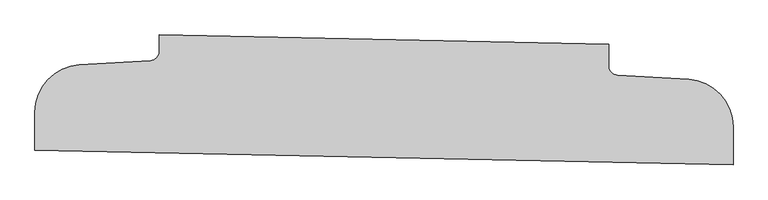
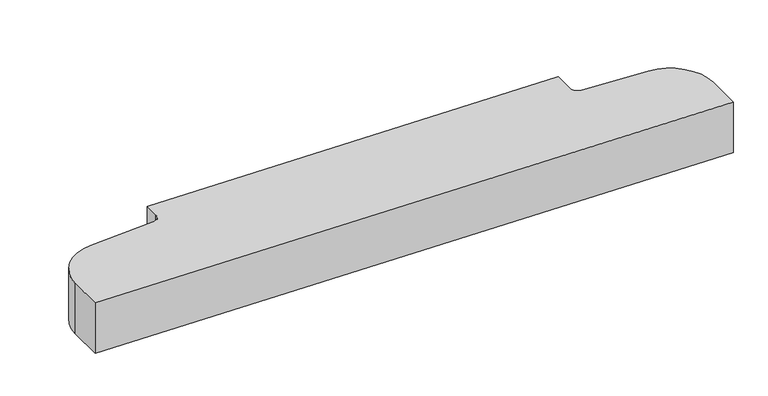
"""IFC4 building model written with IfcOpenShell, lengths in millimetres: proxy geometry, Diaphragm-End.sat."""

from ifc_helpers import new_model, si_unit, point, frame, frame_2d, origin, place, context, project, spatial, polyline, circle_curve, trimmed, segment, composite_curve, outline, extrude, source, transform, mapped, element, save


def generic_models_f0f57694(model_context):
    return source(origin(), model_context, "Body", "SweptSolid", [
        extrude(outline(composite_curve([segment(trimmed(circle_curve(frame_2d((-3022.6, 1065.3275791)), 203.2), [point((-3225.8, 1065.3275791))], [point((-3034.6738676, 1268.1685555))], False, "CARTESIAN"), True, "CONTINUOUS"), segment(polyline([(-3034.6738676, 1268.1685555), (-2728.2361498, 1286.4088958)]), True, "CONTINUOUS"), segment(trimmed(circle_curve(frame_2d((-2730.5, 1324.4415789)), 38.1), [point((-2728.2361498, 1286.4088958))], [point((-2692.4, 1324.4415789))], True, "CARTESIAN"), True, "CONTINUOUS"), segment(polyline([(-2692.4, 1324.4415789), (-2692.4, 1396.492), (-762.0, 1355.9208814), (-762.0, 1261.4495789)]), True, "CONTINUOUS"), segment(trimmed(circle_curve(frame_2d((-723.9, 1261.4495789)), 38.1), [point((-762.0, 1261.4495789))], [point((-726.1638502, 1223.4168958))], True, "CARTESIAN"), True, "CONTINUOUS"), segment(polyline([(-726.1638502, 1223.4168958), (-419.7261324, 1205.1765555)]), True, "CONTINUOUS"), segment(trimmed(circle_curve(frame_2d((-431.8, 1002.3355791)), 203.2), [point((-419.7261324, 1205.1765555))], [point((-228.6, 1002.3355791))], False, "CARTESIAN"), True, "CONTINUOUS"), segment(polyline([(-228.6, 1002.3355791), (-228.6, 838.2), (-3225.8, 901.192), (-3225.8, 1065.3275791)]), True, "CONTINUOUS")], self_intersect=False)), frame((0.0, 0.0, -127.0), z_axis=(0.0, 0.0, 1.0), x_axis=(1.0, 0.0, 0.0)), (0.0, 0.0, 1.0), 254.0),
    ])


if __name__ == "__main__":
    model = new_model("IFC4")
    model_context = context("Model", 3, world=origin())
    ifc_project = project(units=[si_unit("LENGTHUNIT", "METRE", prefix="MILLI")], contexts=[model_context])
    site = spatial("IfcSite", under=ifc_project)
    building = spatial("IfcBuilding", under=site)
    placement = place(None, origin())
    generic_models_shape = generic_models_f0f57694(model_context)
    element("IfcBuildingElementProxy", 1, Name="Diaphragm-End.sat", ObjectType="Diaphragm-End.sat", at=placement, inside=building, context=model_context, shape_type="MappedRepresentation", body=[
        mapped(generic_models_shape, transform((0.0, 0.0, 0.0), x_axis=(1.0, 0.0, 0.0), y_axis=(0.0, 1.0, 0.0), z_axis=(0.0, 0.0, 1.0))),
    ])
    save(model, "model.ifc")
